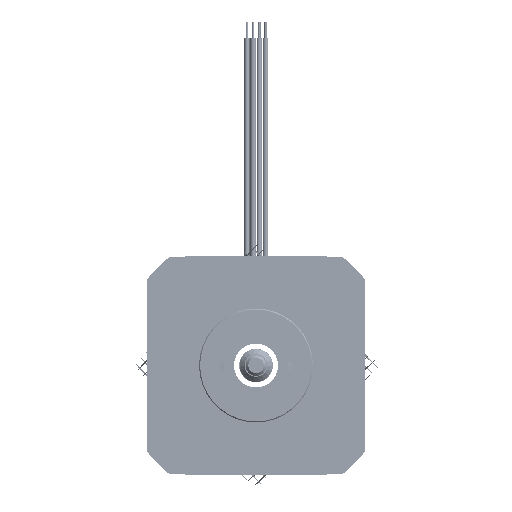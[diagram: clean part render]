
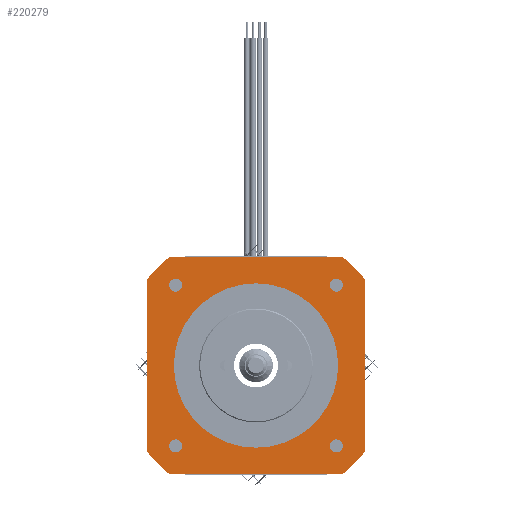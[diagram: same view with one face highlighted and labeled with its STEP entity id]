
A CAD part, left-side view. The second image highlights one B-rep face of the part: STEP entity #220279.
In plain terms, the highlighted planar face has unit normal (-1, 0, 0).
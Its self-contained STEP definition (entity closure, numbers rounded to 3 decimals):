
#218600=CARTESIAN_POINT('',(0.,0.,0.));
#218601=DIRECTION('',(1.,0.,0.));
#218602=DIRECTION('',(0.,0.623,-0.783));
#218603=AXIS2_PLACEMENT_3D('',#218600,#218601,#218602);
#218605=CARTESIAN_POINT('',(0.,0.,0.));
#218606=DIRECTION('',(1.,0.,0.));
#218607=DIRECTION('',(0.,0.783,0.623));
#218608=AXIS2_PLACEMENT_3D('',#218605,#218606,#218607);
#218610=CARTESIAN_POINT('',(0.,0.,0.));
#218611=DIRECTION('',(1.,0.,0.));
#218612=DIRECTION('',(0.,-0.623,0.783));
#218613=AXIS2_PLACEMENT_3D('',#218610,#218611,#218612);
#218615=CARTESIAN_POINT('',(0.,0.,0.));
#218616=DIRECTION('',(1.,0.,0.));
#218617=DIRECTION('',(0.,-0.783,-0.623));
#218618=AXIS2_PLACEMENT_3D('',#218615,#218616,#218617);
#218620=CARTESIAN_POINT('',(0.,0.,0.));
#218621=DIRECTION('',(-1.,0.,0.));
#218622=DIRECTION('',(0.,1.,0.));
#218623=AXIS2_PLACEMENT_3D('',#218620,#218621,#218622);
#218625=CARTESIAN_POINT('',(0.,0.,0.));
#218626=DIRECTION('',(-1.,0.,0.));
#218627=DIRECTION('',(0.,-1.,0.));
#218628=AXIS2_PLACEMENT_3D('',#218625,#218626,#218627);
#218630=CARTESIAN_POINT('',(0.,-15.52,-15.52));
#218631=DIRECTION('',(-1.,0.,0.));
#218632=DIRECTION('',(0.,1.,0.));
#218633=AXIS2_PLACEMENT_3D('',#218630,#218631,#218632);
#218635=CARTESIAN_POINT('',(0.,-15.52,-15.52));
#218636=DIRECTION('',(-1.,0.,0.));
#218637=DIRECTION('',(0.,-1.,0.));
#218638=AXIS2_PLACEMENT_3D('',#218635,#218636,#218637);
#218640=CARTESIAN_POINT('',(0.,15.52,-15.52));
#218641=DIRECTION('',(-1.,0.,0.));
#218642=DIRECTION('',(0.,0.,1.));
#218643=AXIS2_PLACEMENT_3D('',#218640,#218641,#218642);
#218645=CARTESIAN_POINT('',(0.,15.52,-15.52));
#218646=DIRECTION('',(-1.,0.,0.));
#218647=DIRECTION('',(0.,0.,-1.));
#218648=AXIS2_PLACEMENT_3D('',#218645,#218646,#218647);
#218650=CARTESIAN_POINT('',(0.,15.52,15.52));
#218651=DIRECTION('',(-1.,0.,0.));
#218652=DIRECTION('',(0.,-1.,0.));
#218653=AXIS2_PLACEMENT_3D('',#218650,#218651,#218652);
#218655=CARTESIAN_POINT('',(0.,15.52,15.52));
#218656=DIRECTION('',(-1.,0.,0.));
#218657=DIRECTION('',(0.,1.,0.));
#218658=AXIS2_PLACEMENT_3D('',#218655,#218656,#218657);
#218660=CARTESIAN_POINT('',(0.,-15.52,15.52));
#218661=DIRECTION('',(-1.,0.,0.));
#218662=DIRECTION('',(0.,0.,-1.));
#218663=AXIS2_PLACEMENT_3D('',#218660,#218661,#218662);
#218665=CARTESIAN_POINT('',(0.,-15.52,15.52));
#218666=DIRECTION('',(-1.,0.,0.));
#218667=DIRECTION('',(0.,0.,1.));
#218668=AXIS2_PLACEMENT_3D('',#218665,#218666,#218667);
#218674=DIRECTION('',(0.,-1.,0.));
#218675=VECTOR('',#218674,33.414);
#218676=CARTESIAN_POINT('',(0.,16.707,-21.));
#218677=LINE('',#218676,#218675);
#218861=DIRECTION('',(0.,0.,1.));
#218862=VECTOR('',#218861,33.414);
#218863=CARTESIAN_POINT('',(0.,-21.,-16.707));
#218864=LINE('',#218863,#218862);
#218881=DIRECTION('',(0.,1.,0.));
#218882=VECTOR('',#218881,33.414);
#218883=CARTESIAN_POINT('',(0.,-16.707,21.));
#218884=LINE('',#218883,#218882);
#218923=DIRECTION('',(0.,0.,-1.));
#218924=VECTOR('',#218923,33.414);
#218925=CARTESIAN_POINT('',(0.,21.,16.707));
#218926=LINE('',#218925,#218924);
#219962=CARTESIAN_POINT('',(0.,16.707,-21.));
#219963=CARTESIAN_POINT('',(0.,21.,-16.707));
#219964=VERTEX_POINT('',#219962);
#219965=VERTEX_POINT('',#219963);
#219966=CARTESIAN_POINT('',(0.,21.,16.707));
#219967=VERTEX_POINT('',#219966);
#219968=CARTESIAN_POINT('',(0.,16.707,21.));
#219969=VERTEX_POINT('',#219968);
#219970=CARTESIAN_POINT('',(0.,-16.707,21.));
#219971=VERTEX_POINT('',#219970);
#219972=CARTESIAN_POINT('',(0.,-21.,16.707));
#219973=VERTEX_POINT('',#219972);
#219974=CARTESIAN_POINT('',(0.,-21.,-16.707));
#219975=VERTEX_POINT('',#219974);
#219976=CARTESIAN_POINT('',(0.,-16.707,-21.));
#219977=VERTEX_POINT('',#219976);
#219978=CARTESIAN_POINT('',(0.,15.875,0.));
#219979=CARTESIAN_POINT('',(0.,-15.875,0.));
#219980=VERTEX_POINT('',#219978);
#219981=VERTEX_POINT('',#219979);
#219982=CARTESIAN_POINT('',(0.,-14.27,-15.52));
#219983=CARTESIAN_POINT('',(0.,-16.77,-15.52));
#219984=VERTEX_POINT('',#219982);
#219985=VERTEX_POINT('',#219983);
#219986=CARTESIAN_POINT('',(0.,15.52,-14.27));
#219987=CARTESIAN_POINT('',(0.,15.52,-16.77));
#219988=VERTEX_POINT('',#219986);
#219989=VERTEX_POINT('',#219987);
#219990=CARTESIAN_POINT('',(0.,14.27,15.52));
#219991=CARTESIAN_POINT('',(0.,16.77,15.52));
#219992=VERTEX_POINT('',#219990);
#219993=VERTEX_POINT('',#219991);
#219994=CARTESIAN_POINT('',(0.,-15.52,14.27));
#219995=CARTESIAN_POINT('',(0.,-15.52,16.77));
#219996=VERTEX_POINT('',#219994);
#219997=VERTEX_POINT('',#219995);
#220226=CARTESIAN_POINT('',(0.,0.,0.));
#220227=DIRECTION('',(1.,0.,0.));
#220228=DIRECTION('',(0.,-1.,0.));
#220229=AXIS2_PLACEMENT_3D('',#220226,#220227,#220228);
#220230=PLANE('',#220229);
#220232=ORIENTED_EDGE('',*,*,#220231,.T.);
#220234=ORIENTED_EDGE('',*,*,#220233,.F.);
#220236=ORIENTED_EDGE('',*,*,#220235,.T.);
#220238=ORIENTED_EDGE('',*,*,#220237,.F.);
#220240=ORIENTED_EDGE('',*,*,#220239,.T.);
#220242=ORIENTED_EDGE('',*,*,#220241,.F.);
#220244=ORIENTED_EDGE('',*,*,#220243,.T.);
#220246=ORIENTED_EDGE('',*,*,#220245,.F.);
#220247=EDGE_LOOP('',(#220232,#220234,#220236,#220238,#220240,#220242,#220244,
#220246));
#220248=FACE_OUTER_BOUND('',#220247,.F.);
#220250=ORIENTED_EDGE('',*,*,#220249,.T.);
#220252=ORIENTED_EDGE('',*,*,#220251,.T.);
#220253=EDGE_LOOP('',(#220250,#220252));
#220254=FACE_BOUND('',#220253,.F.);
#220256=ORIENTED_EDGE('',*,*,#220255,.T.);
#220258=ORIENTED_EDGE('',*,*,#220257,.T.);
#220259=EDGE_LOOP('',(#220256,#220258));
#220260=FACE_BOUND('',#220259,.F.);
#220262=ORIENTED_EDGE('',*,*,#220261,.T.);
#220264=ORIENTED_EDGE('',*,*,#220263,.T.);
#220265=EDGE_LOOP('',(#220262,#220264));
#220266=FACE_BOUND('',#220265,.F.);
#220268=ORIENTED_EDGE('',*,*,#220267,.T.);
#220270=ORIENTED_EDGE('',*,*,#220269,.T.);
#220271=EDGE_LOOP('',(#220268,#220270));
#220272=FACE_BOUND('',#220271,.F.);
#220274=ORIENTED_EDGE('',*,*,#220273,.T.);
#220276=ORIENTED_EDGE('',*,*,#220275,.T.);
#220277=EDGE_LOOP('',(#220274,#220276));
#220278=FACE_BOUND('',#220277,.F.);
#220279=ADVANCED_FACE('',(#220248,#220254,#220260,#220266,#220272,#220278),
#220230,.F.);
#218604=CIRCLE('',#218603,26.835);
#218609=CIRCLE('',#218608,26.835);
#218614=CIRCLE('',#218613,26.835);
#218619=CIRCLE('',#218618,26.835);
#218624=CIRCLE('',#218623,15.875);
#218629=CIRCLE('',#218628,15.875);
#218634=CIRCLE('',#218633,1.25);
#218639=CIRCLE('',#218638,1.25);
#218644=CIRCLE('',#218643,1.25);
#218649=CIRCLE('',#218648,1.25);
#218654=CIRCLE('',#218653,1.25);
#218659=CIRCLE('',#218658,1.25);
#218664=CIRCLE('',#218663,1.25);
#218669=CIRCLE('',#218668,1.25);
#220231=EDGE_CURVE('',#219964,#219965,#218604,.T.);
#220233=EDGE_CURVE('',#219967,#219965,#218926,.T.);
#220235=EDGE_CURVE('',#219967,#219969,#218609,.T.);
#220237=EDGE_CURVE('',#219971,#219969,#218884,.T.);
#220239=EDGE_CURVE('',#219971,#219973,#218614,.T.);
#220241=EDGE_CURVE('',#219975,#219973,#218864,.T.);
#220243=EDGE_CURVE('',#219975,#219977,#218619,.T.);
#220245=EDGE_CURVE('',#219964,#219977,#218677,.T.);
#220249=EDGE_CURVE('',#219980,#219981,#218624,.T.);
#220251=EDGE_CURVE('',#219981,#219980,#218629,.T.);
#220255=EDGE_CURVE('',#219984,#219985,#218634,.T.);
#220257=EDGE_CURVE('',#219985,#219984,#218639,.T.);
#220261=EDGE_CURVE('',#219988,#219989,#218644,.T.);
#220263=EDGE_CURVE('',#219989,#219988,#218649,.T.);
#220267=EDGE_CURVE('',#219992,#219993,#218654,.T.);
#220269=EDGE_CURVE('',#219993,#219992,#218659,.T.);
#220273=EDGE_CURVE('',#219996,#219997,#218664,.T.);
#220275=EDGE_CURVE('',#219997,#219996,#218669,.T.);
